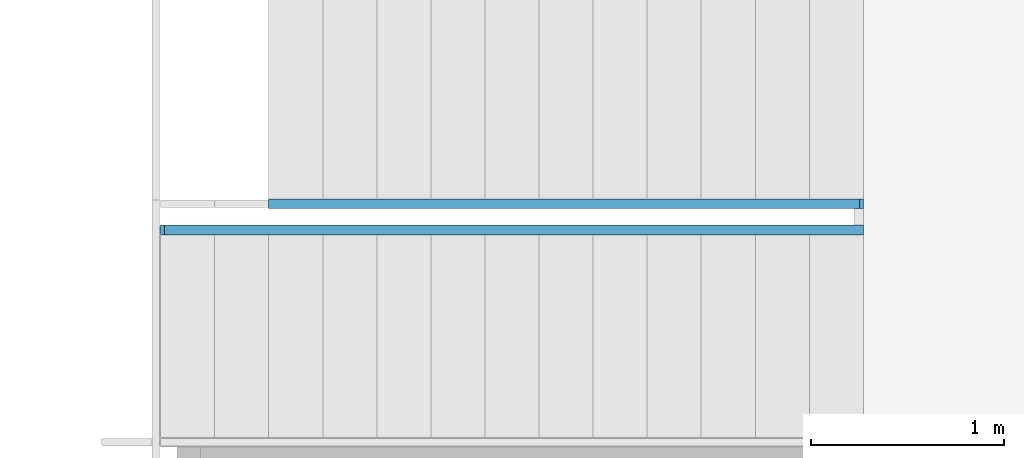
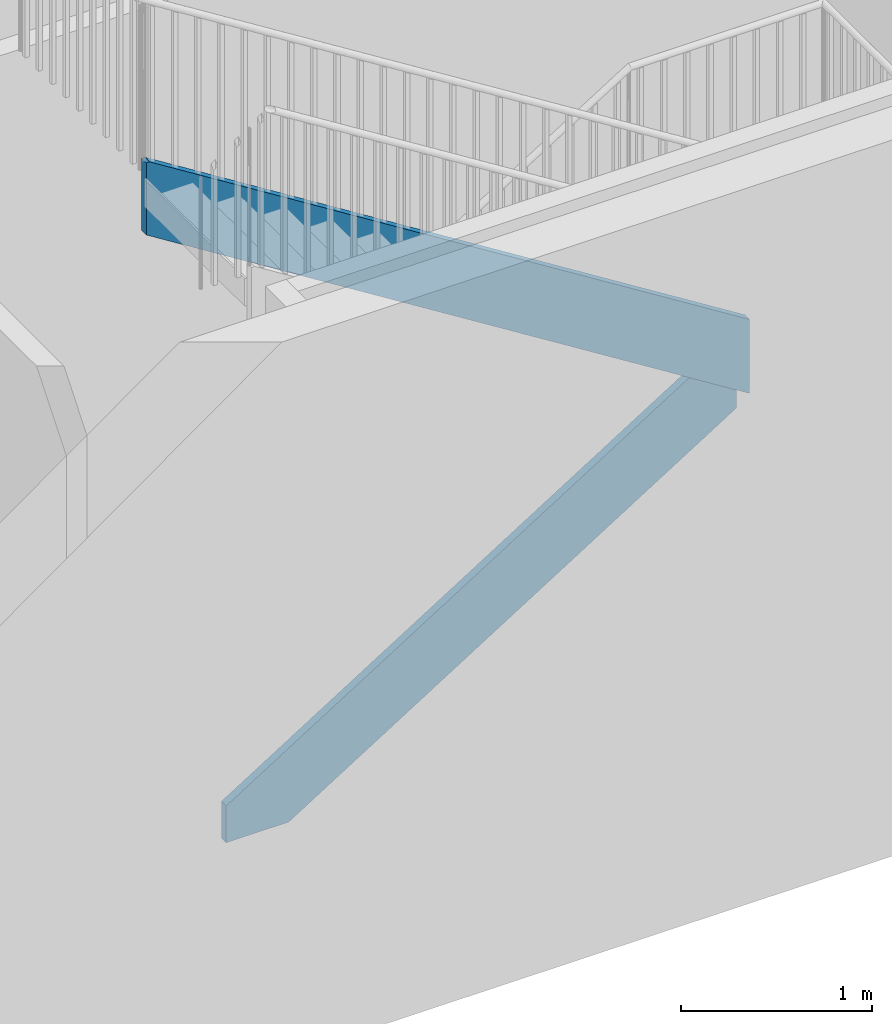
# One storey, part 5 of 82: 2 members, 1 element without a shape of its own.
"""IFC2X3 building model written with IfcOpenShell, lengths in metres."""

from ifc_helpers import new_model, entity, si_unit, converted_unit, frame, origin, place, context, project, spatial, polyline, outline, extrude, element, aggregate, save


model = new_model("IFC2X3")

# Units and contexts
model_context = context("Model", 3, precision=1e-09, world=origin())
plan_context = context("Plan", 3, precision=1e-09, world=origin())
ifc_project = project(units=[si_unit("LENGTHUNIT", "METRE"), si_unit("AREAUNIT", "SQUARE_METRE"), si_unit("VOLUMEUNIT", "CUBIC_METRE"), converted_unit("PLANEANGLEUNIT", "DEGREE", entity("IfcRatioMeasure", 0.01745329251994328), si_unit("PLANEANGLEUNIT", "RADIAN"), dimensions=[0, 0, 0, 0, 0, 0, 0]), si_unit("TIMEUNIT", "SECOND")], contexts=[model_context, plan_context])

# Site, building, storey
site_placement = place(None, origin())
site = spatial("IfcSite", under=ifc_project, at=site_placement, Name="Default", CompositionType="ELEMENT")
building_placement = place(site_placement, origin())
building = spatial("IfcBuilding", under=site, at=building_placement, CompositionType="ELEMENT")
storey_placement = place(building_placement, origin())
storey = spatial("IfcBuildingStorey", under=building, at=storey_placement, Name="First Floor", CompositionType="ELEMENT", Elevation=-3.531500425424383e-13)

# Stair, members
stair_placement = place(storey_placement, origin())
stair = element("IfcStair", 1, at=stair_placement, inside=storey, Name="Stair:Concrete Pan - 180mm Max Riser 280mm Tread", ObjectType="Stair:Concrete Pan - 180mm Max Riser 280mm Tread", ShapeType="HALF_TURN_STAIR")
member_1_placement = place(storey_placement, origin())
member_1 = element("IfcMember", 2, at=member_1_placement, Name="Stair:Concrete Pan - 180mm Max Riser 280mm Tread:3", ObjectType="stringer", context=model_context, shape_type="SweptSolid", body=[
    extrude(outline(polyline([(-2.723304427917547, -0.2378877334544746), (1.57446534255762, -0.2378877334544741), (1.818934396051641, 0.151550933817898), (1.802110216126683, 0.1621122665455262), (-2.472205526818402, 0.1621122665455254), (-2.723304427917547, -0.2378877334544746)])), frame((-15.05402697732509, 11.36999983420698, 3.521298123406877), z_axis=(0.0, 1.0, 0.0), x_axis=(-0.8469509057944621, 0.0, 0.5316711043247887)), (0.0, 0.0, 1.0), 0.04999999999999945),
])
member_2_placement = place(storey_placement, origin())
member_2 = element("IfcMember", 3, at=member_2_placement, Name="Stair:Concrete Pan - 180mm Max Riser 280mm Tread:2", ObjectType="stringer", context=model_context, shape_type="SweptSolid", body=[
    extrude(outline(polyline([(-1.783145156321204, -0.1682613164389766), (1.82997523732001, -0.1682613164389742), (1.846799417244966, -0.1576999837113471), (1.602330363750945, 0.231738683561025), (-1.587888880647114, 0.2317386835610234), (-1.908070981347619, 0.03074524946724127), (-1.783145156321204, -0.1682613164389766)])), frame((-14.35430377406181, 11.50599999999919, 1.040505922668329), z_axis=(0.0, 1.0, 0.0), x_axis=(0.8469509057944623, 0.0, 0.5316711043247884)), (0.0, 0.0, 1.0), 0.04999999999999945),
])
aggregate(stair, [member_1, member_2])

save(model, "model.ifc")
